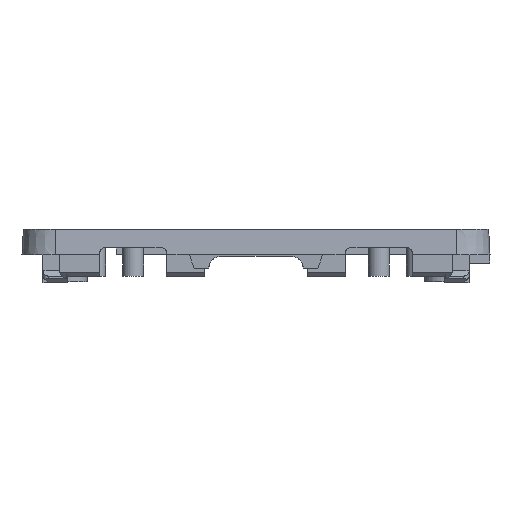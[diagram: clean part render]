
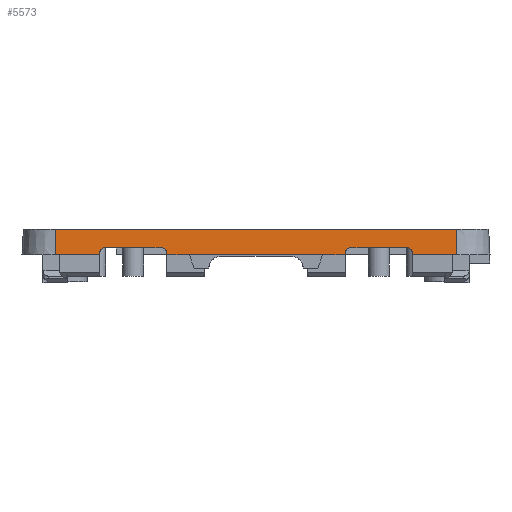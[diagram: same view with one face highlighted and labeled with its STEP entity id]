
A CAD part, front view. The second image highlights one B-rep face of the part: STEP entity #5573.
In plain terms, the highlighted planar face has unit normal (0, -0.999, 0.052).
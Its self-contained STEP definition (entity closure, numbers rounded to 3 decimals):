
#58=DIRECTION('',(0.,0.052,0.999));
#59=VECTOR('',#58,0.15);
#60=CARTESIAN_POINT('',(8.,-28.155,-0.1));
#61=LINE('',#60,#59);
#739=DIRECTION('',(0.,-0.052,-0.999));
#740=VECTOR('',#739,2.303);
#741=CARTESIAN_POINT('',(17.95,-28.035,2.2));
#742=LINE('',#741,#740);
#743=DIRECTION('',(0.,0.052,0.999));
#744=VECTOR('',#743,0.15);
#745=CARTESIAN_POINT('',(14.,-28.155,-0.1));
#746=LINE('',#745,#744);
#747=CARTESIAN_POINT('',(14.,-28.147,0.05));
#748=CARTESIAN_POINT('',(14.,-28.139,0.217));
#749=CARTESIAN_POINT('',(13.874,-28.128,0.424));
#750=CARTESIAN_POINT('',(13.667,-28.121,0.55));
#751=CARTESIAN_POINT('',(13.5,-28.121,0.55));
#753=DIRECTION('',(-1.,0.,0.));
#754=VECTOR('',#753,5.);
#755=CARTESIAN_POINT('',(13.5,-28.121,0.55));
#756=LINE('',#755,#754);
#757=CARTESIAN_POINT('',(8.5,-28.121,0.55));
#758=CARTESIAN_POINT('',(8.333,-28.121,0.55));
#759=CARTESIAN_POINT('',(8.126,-28.128,0.424));
#760=CARTESIAN_POINT('',(8.,-28.139,0.217));
#761=CARTESIAN_POINT('',(8.,-28.147,0.05));
#763=DIRECTION('',(-1.,-0.003,0.));
#764=VECTOR('',#763,2.036);
#765=CARTESIAN_POINT('',(-5.964,-28.149,
-0.1));
#766=LINE('',#765,#764);
#767=DIRECTION('',(0.,0.052,0.999));
#768=VECTOR('',#767,0.15);
#769=CARTESIAN_POINT('',(-8.,-28.155,-0.1));
#770=LINE('',#769,#768);
#771=DIRECTION('',(-1.,0.,0.));
#772=VECTOR('',#771,3.95);
#773=CARTESIAN_POINT('',(-14.,-28.155,-0.1));
#774=LINE('',#773,#772);
#780=DIRECTION('',(0.,-0.052,-0.999));
#781=VECTOR('',#780,2.303);
#782=CARTESIAN_POINT('',(-17.95,-28.035,2.2));
#783=LINE('',#782,#781);
#1036=DIRECTION('',(-1.,0.,0.));
#1037=VECTOR('',#1036,35.9);
#1038=CARTESIAN_POINT('',(17.95,-28.035,2.2));
#1039=LINE('',#1038,#1037);
#1493=DIRECTION('',(1.,0.,0.));
#1494=VECTOR('',#1493,3.95);
#1495=CARTESIAN_POINT('',(14.,-28.155,-0.1));
#1496=LINE('',#1495,#1494);
#3054=DIRECTION('',(0.,0.052,0.999));
#3055=VECTOR('',#3054,0.15);
#3056=CARTESIAN_POINT('',(-14.,-28.155,-0.1));
#3057=LINE('',#3056,#3055);
#3122=CARTESIAN_POINT('',(-14.,-28.147,0.05));
#3123=CARTESIAN_POINT('',(-14.,-28.139,0.217));
#3124=CARTESIAN_POINT('',(-13.874,-28.128,
0.424));
#3125=CARTESIAN_POINT('',(-13.667,-28.121,
0.55));
#3126=CARTESIAN_POINT('',(-13.5,-28.121,0.55));
#3136=DIRECTION('',(1.,0.,0.));
#3137=VECTOR('',#3136,5.);
#3138=CARTESIAN_POINT('',(-13.5,-28.121,0.55));
#3139=LINE('',#3138,#3137);
#3140=CARTESIAN_POINT('',(-8.5,-28.121,0.55));
#3141=CARTESIAN_POINT('',(-8.333,-28.121,
0.55));
#3142=CARTESIAN_POINT('',(-8.126,-28.128,
0.424));
#3143=CARTESIAN_POINT('',(-8.,-28.139,0.217));
#3144=CARTESIAN_POINT('',(-8.,-28.147,0.05));
#3277=DIRECTION('',(1.,0.,0.));
#3278=VECTOR('',#3277,11.927);
#3279=CARTESIAN_POINT('',(-5.964,-28.149,
-0.1));
#3280=LINE('',#3279,#3278);
#3307=CARTESIAN_POINT('',(5.964,-28.149,
-0.1));
#3308=CARTESIAN_POINT('',(6.642,-28.149,
-0.1));
#3309=CARTESIAN_POINT('',(7.321,-28.155,-0.1));
#3310=CARTESIAN_POINT('',(8.,-28.155,-0.1));
#3534=VERTEX_POINT('',#747);
#3535=VERTEX_POINT('',#751);
#3536=VERTEX_POINT('',#3140);
#3537=VERTEX_POINT('',#3144);
#3538=CARTESIAN_POINT('',(-13.5,-28.121,0.55));
#3539=VERTEX_POINT('',#3538);
#3540=VERTEX_POINT('',#3122);
#3541=CARTESIAN_POINT('',(8.5,-28.121,0.55));
#3542=VERTEX_POINT('',#3541);
#3543=VERTEX_POINT('',#761);
#3921=CARTESIAN_POINT('',(17.95,-28.035,2.2));
#3922=CARTESIAN_POINT('',(-17.95,-28.035,2.2));
#3923=VERTEX_POINT('',#3921);
#3924=VERTEX_POINT('',#3922);
#4163=CARTESIAN_POINT('',(8.,-28.155,-0.1));
#4165=VERTEX_POINT('',#4163);
#4169=CARTESIAN_POINT('',(5.964,-28.149,
-0.1));
#4170=VERTEX_POINT('',#4169);
#4171=CARTESIAN_POINT('',(14.,-28.155,-0.1));
#4173=VERTEX_POINT('',#4171);
#4175=CARTESIAN_POINT('',(-5.964,-28.149,
-0.1));
#4176=CARTESIAN_POINT('',(-8.,-28.155,-0.1));
#4177=VERTEX_POINT('',#4175);
#4178=VERTEX_POINT('',#4176);
#4179=CARTESIAN_POINT('',(-14.,-28.155,-0.1));
#4180=CARTESIAN_POINT('',(-17.95,-28.155,-0.1));
#4181=VERTEX_POINT('',#4179);
#4182=VERTEX_POINT('',#4180);
#4183=CARTESIAN_POINT('',(17.95,-28.155,-0.1));
#4184=VERTEX_POINT('',#4183);
#5532=CARTESIAN_POINT('',(-1.718,-28.15,0.));
#5533=DIRECTION('',(0.,-0.999,0.052));
#5534=DIRECTION('',(-1.,0.,0.));
#5535=AXIS2_PLACEMENT_3D('',#5532,#5533,#5534);
#5536=PLANE('',#5535);
#5538=ORIENTED_EDGE('',*,*,#5537,.F.);
#5540=ORIENTED_EDGE('',*,*,#5539,.F.);
#5541=ORIENTED_EDGE('',*,*,#5522,.T.);
#5543=ORIENTED_EDGE('',*,*,#5542,.F.);
#5545=ORIENTED_EDGE('',*,*,#5544,.T.);
#5547=ORIENTED_EDGE('',*,*,#5546,.T.);
#5549=ORIENTED_EDGE('',*,*,#5548,.T.);
#5551=ORIENTED_EDGE('',*,*,#5550,.T.);
#5552=ORIENTED_EDGE('',*,*,#4495,.F.);
#5554=ORIENTED_EDGE('',*,*,#5553,.F.);
#5556=ORIENTED_EDGE('',*,*,#5555,.F.);
#5558=ORIENTED_EDGE('',*,*,#5557,.T.);
#5560=ORIENTED_EDGE('',*,*,#5559,.T.);
#5562=ORIENTED_EDGE('',*,*,#5561,.F.);
#5564=ORIENTED_EDGE('',*,*,#5563,.F.);
#5566=ORIENTED_EDGE('',*,*,#5565,.F.);
#5568=ORIENTED_EDGE('',*,*,#5567,.F.);
#5570=ORIENTED_EDGE('',*,*,#5569,.T.);
#5571=EDGE_LOOP('',(#5538,#5540,#5541,#5543,#5545,#5547,#5549,#5551,#5552,#5554,
#5556,#5558,#5560,#5562,#5564,#5566,#5568,#5570));
#5572=FACE_OUTER_BOUND('',#5571,.F.);
#752=B_SPLINE_CURVE_WITH_KNOTS('',3,(#747,#748,#749,#750,#751),.UNSPECIFIED.,
.F.,.F.,(4,1,4),(0.,0.5,1.),.UNSPECIFIED.);
#762=B_SPLINE_CURVE_WITH_KNOTS('',3,(#757,#758,#759,#760,#761),.UNSPECIFIED.,
.F.,.F.,(4,1,4),(0.,0.5,1.),.UNSPECIFIED.);
#3127=B_SPLINE_CURVE_WITH_KNOTS('',3,(#3122,#3123,#3124,#3125,#3126),
.UNSPECIFIED.,.F.,.F.,(4,1,4),(0.,0.5,1.),.UNSPECIFIED.);
#3145=B_SPLINE_CURVE_WITH_KNOTS('',3,(#3140,#3141,#3142,#3143,#3144),
.UNSPECIFIED.,.F.,.F.,(4,1,4),(0.,0.5,1.),.UNSPECIFIED.);
#3311=B_SPLINE_CURVE_WITH_KNOTS('',3,(#3307,#3308,#3309,#3310),.UNSPECIFIED.,
.F.,.F.,(4,4),(0.,1.),.UNSPECIFIED.);
#4495=EDGE_CURVE('',#4165,#3543,#61,.T.);
#5522=EDGE_CURVE('',#3923,#4184,#742,.T.);
#5537=EDGE_CURVE('',#3924,#4182,#783,.T.);
#5539=EDGE_CURVE('',#3923,#3924,#1039,.T.);
#5542=EDGE_CURVE('',#4173,#4184,#1496,.T.);
#5544=EDGE_CURVE('',#4173,#3534,#746,.T.);
#5546=EDGE_CURVE('',#3534,#3535,#752,.T.);
#5548=EDGE_CURVE('',#3535,#3542,#756,.T.);
#5550=EDGE_CURVE('',#3542,#3543,#762,.T.);
#5553=EDGE_CURVE('',#4170,#4165,#3311,.T.);
#5555=EDGE_CURVE('',#4177,#4170,#3280,.T.);
#5557=EDGE_CURVE('',#4177,#4178,#766,.T.);
#5559=EDGE_CURVE('',#4178,#3537,#770,.T.);
#5561=EDGE_CURVE('',#3536,#3537,#3145,.T.);
#5563=EDGE_CURVE('',#3539,#3536,#3139,.T.);
#5565=EDGE_CURVE('',#3540,#3539,#3127,.T.);
#5567=EDGE_CURVE('',#4181,#3540,#3057,.T.);
#5569=EDGE_CURVE('',#4181,#4182,#774,.T.);
#5573=ADVANCED_FACE('',(#5572),#5536,.T.);
